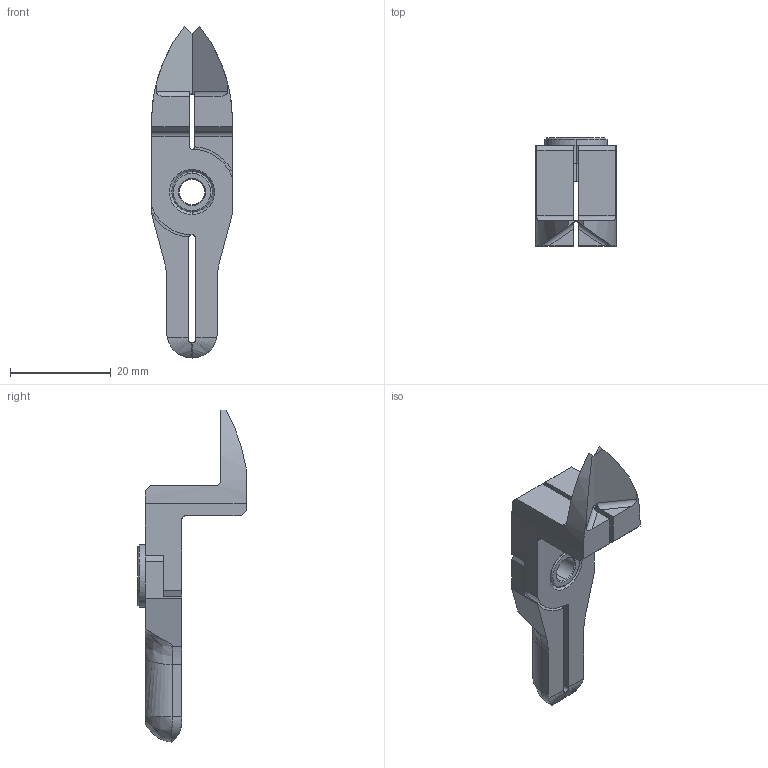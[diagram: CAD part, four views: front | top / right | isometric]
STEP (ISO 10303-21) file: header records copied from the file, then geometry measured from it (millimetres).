
FILE_DESCRIPTION (( 'STEP AP214' ), '1' );
FILE_NAME ('NY10AH.STEP', '2019-11-28T05:12:32', ( '微软用户' ), ( '微软中国' ), 'SwSTEP 2.0', 'SolidWorks 2016', '' );
FILE_SCHEMA (( 'AUTOMOTIVE_DESIGN' ));
Length unit declared in the file: millimetre
Products named in the file (4): NY10AH; BR2; BR1; BS
Assembly tree (3 placements, depth 2):
  NY10AH
    BS
    BR1
    BR2
Bounding box: 16 x 21.5 x 66 mm (x, y, z)
Volume: 5619.4 mm3; surface area: 4895 mm2
Topology: 3 solids, 3 shells, 129 faces, 338 edges, 216 vertices
Faces by surface type: plane 47, cylinder 36, cone 22, bspline 20, torus 4
Entity records: 4345 total; most frequent: CARTESIAN_POINT 1185, ORIENTED_EDGE 668, DIRECTION 590, EDGE_CURVE 334, VERTEX_POINT 216, AXIS2_PLACEMENT_3D 211, LINE 168, VECTOR 168
